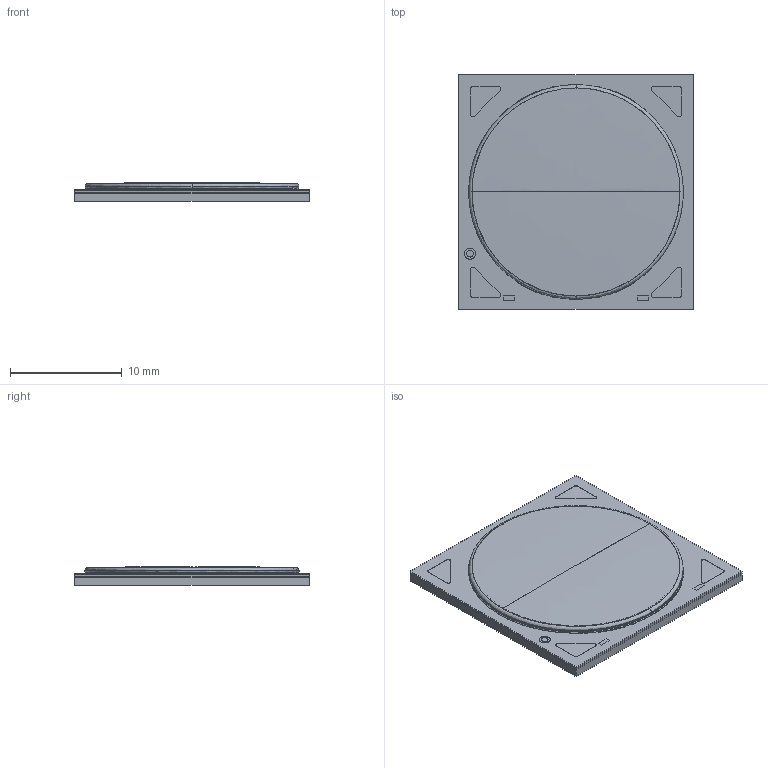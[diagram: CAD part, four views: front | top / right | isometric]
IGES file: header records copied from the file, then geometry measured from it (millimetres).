
Start section: SolidWorks IGES file using analytic representation for surfaces
Global section: file name: C:\Users\deanyi\Desktop\BLXX ENGINEERING\Vero18  CHANGE TO V18 Add Tc test print\QM_Sub_08mm_Rect2.IGS; native system: SolidWorks 2013; preprocessor: SolidWorks 2013; author: deanyi; date: 150222.223519; units: millimetre
Bounding box: 21 x 21 x 1.7 mm (x, y, z)
Surface area: 2787.3 mm2 (no closed solid volume)
Topology: 0 solids, 0 shells, 198 faces, 1984 edges, 1983 vertices
Faces by surface type: revolution 117, bspline 81
